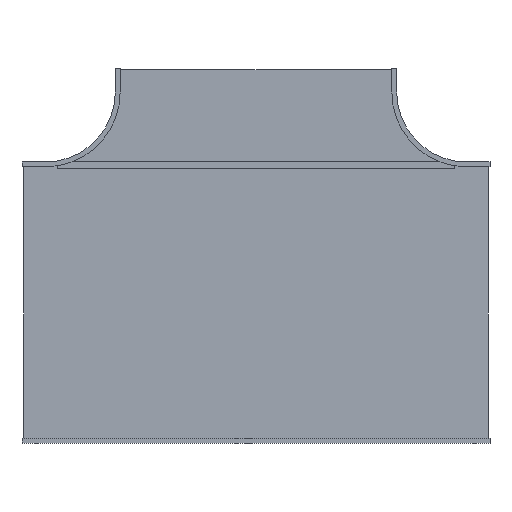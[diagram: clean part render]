
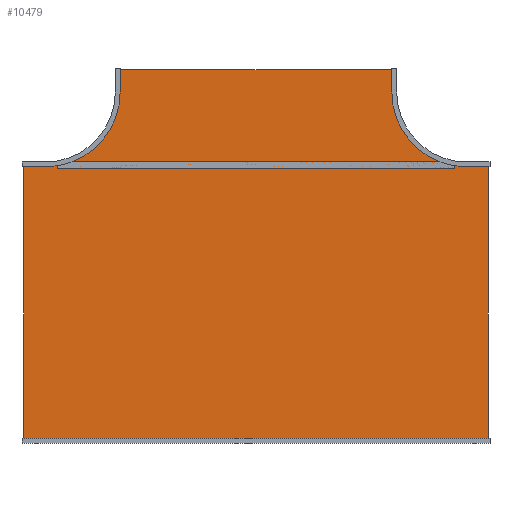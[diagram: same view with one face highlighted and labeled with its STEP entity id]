
A CAD part, front view. The second image highlights one B-rep face of the part: STEP entity #10479.
In plain terms, the highlighted planar face has unit normal (0, -1, 0).
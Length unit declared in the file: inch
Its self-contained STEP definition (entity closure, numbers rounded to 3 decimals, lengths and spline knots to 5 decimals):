
#10288=DIRECTION('',(1.,0.,0.));
#10289=VECTOR('',#10288,35.875);
#10290=CARTESIAN_POINT('',(-17.9375,0.,0.));
#10291=LINE('',#10290,#10289);
#10292=DIRECTION('',(0.,0.,-1.));
#10293=VECTOR('',#10292,2.875);
#10294=CARTESIAN_POINT('',(17.9375,0.,0.));
#10295=LINE('',#10294,#10293);
#10296=CARTESIAN_POINT('',(27.,0.,-2.875));
#10297=DIRECTION('',(0.,-1.,0.));
#10298=DIRECTION('',(-1.,0.,0.));
#10299=AXIS2_PLACEMENT_3D('',#10296,#10297,#10298);
#10301=DIRECTION('',(1.,0.,0.));
#10302=VECTOR('',#10301,2.875);
#10303=CARTESIAN_POINT('',(27.,0.,-11.9375));
#10304=LINE('',#10303,#10302);
#10305=DIRECTION('',(0.,0.,-1.));
#10306=VECTOR('',#10305,35.875);
#10307=CARTESIAN_POINT('',(29.875,0.,-11.9375));
#10308=LINE('',#10307,#10306);
#10309=DIRECTION('',(-1.,0.,0.));
#10310=VECTOR('',#10309,59.75);
#10311=CARTESIAN_POINT('',(29.875,0.,-47.8125));
#10312=LINE('',#10311,#10310);
#10313=DIRECTION('',(0.,0.,1.));
#10314=VECTOR('',#10313,35.875);
#10315=CARTESIAN_POINT('',(-29.875,0.,-47.8125));
#10316=LINE('',#10315,#10314);
#10317=DIRECTION('',(1.,0.,0.));
#10318=VECTOR('',#10317,2.875);
#10319=CARTESIAN_POINT('',(-29.875,0.,-11.9375));
#10320=LINE('',#10319,#10318);
#10321=CARTESIAN_POINT('',(-27.,0.,-2.875));
#10322=DIRECTION('',(0.,-1.,0.));
#10323=DIRECTION('',(0.,0.,-1.));
#10324=AXIS2_PLACEMENT_3D('',#10321,#10322,#10323);
#10326=DIRECTION('',(0.,0.,1.));
#10327=VECTOR('',#10326,2.875);
#10328=CARTESIAN_POINT('',(-17.9375,0.,-2.875));
#10329=LINE('',#10328,#10327);
#10412=CARTESIAN_POINT('',(-17.9375,0.,0.));
#10413=CARTESIAN_POINT('',(17.9375,0.,0.));
#10414=VERTEX_POINT('',#10412);
#10415=VERTEX_POINT('',#10413);
#10416=CARTESIAN_POINT('',(17.9375,0.,-2.875));
#10417=VERTEX_POINT('',#10416);
#10418=CARTESIAN_POINT('',(27.,0.,-11.9375));
#10419=VERTEX_POINT('',#10418);
#10420=CARTESIAN_POINT('',(29.875,0.,-11.9375));
#10421=VERTEX_POINT('',#10420);
#10422=CARTESIAN_POINT('',(29.875,0.,-47.8125));
#10423=VERTEX_POINT('',#10422);
#10424=CARTESIAN_POINT('',(-29.875,0.,-47.8125));
#10425=VERTEX_POINT('',#10424);
#10426=CARTESIAN_POINT('',(-29.875,0.,-11.9375));
#10427=VERTEX_POINT('',#10426);
#10428=CARTESIAN_POINT('',(-27.,0.,-11.9375));
#10429=VERTEX_POINT('',#10428);
#10430=CARTESIAN_POINT('',(-17.9375,0.,-2.875));
#10431=VERTEX_POINT('',#10430);
#10452=CARTESIAN_POINT('',(0.,0.,0.));
#10453=DIRECTION('',(0.,1.,0.));
#10454=DIRECTION('',(1.,0.,0.));
#10455=AXIS2_PLACEMENT_3D('',#10452,#10453,#10454);
#10456=PLANE('',#10455);
#10458=ORIENTED_EDGE('',*,*,#10457,.T.);
#10460=ORIENTED_EDGE('',*,*,#10459,.T.);
#10462=ORIENTED_EDGE('',*,*,#10461,.T.);
#10464=ORIENTED_EDGE('',*,*,#10463,.T.);
#10466=ORIENTED_EDGE('',*,*,#10465,.T.);
#10468=ORIENTED_EDGE('',*,*,#10467,.T.);
#10470=ORIENTED_EDGE('',*,*,#10469,.T.);
#10472=ORIENTED_EDGE('',*,*,#10471,.T.);
#10474=ORIENTED_EDGE('',*,*,#10473,.T.);
#10476=ORIENTED_EDGE('',*,*,#10475,.T.);
#10477=EDGE_LOOP('',(#10458,#10460,#10462,#10464,#10466,#10468,#10470,#10472,
#10474,#10476));
#10478=FACE_OUTER_BOUND('',#10477,.F.);
#10479=ADVANCED_FACE('',(#10478),#10456,.F.);
#10300=CIRCLE('',#10299,9.0625);
#10325=CIRCLE('',#10324,9.0625);
#10457=EDGE_CURVE('',#10414,#10415,#10291,.T.);
#10459=EDGE_CURVE('',#10415,#10417,#10295,.T.);
#10461=EDGE_CURVE('',#10417,#10419,#10300,.T.);
#10463=EDGE_CURVE('',#10419,#10421,#10304,.T.);
#10465=EDGE_CURVE('',#10421,#10423,#10308,.T.);
#10467=EDGE_CURVE('',#10423,#10425,#10312,.T.);
#10469=EDGE_CURVE('',#10425,#10427,#10316,.T.);
#10471=EDGE_CURVE('',#10427,#10429,#10320,.T.);
#10473=EDGE_CURVE('',#10429,#10431,#10325,.T.);
#10475=EDGE_CURVE('',#10431,#10414,#10329,.T.);
